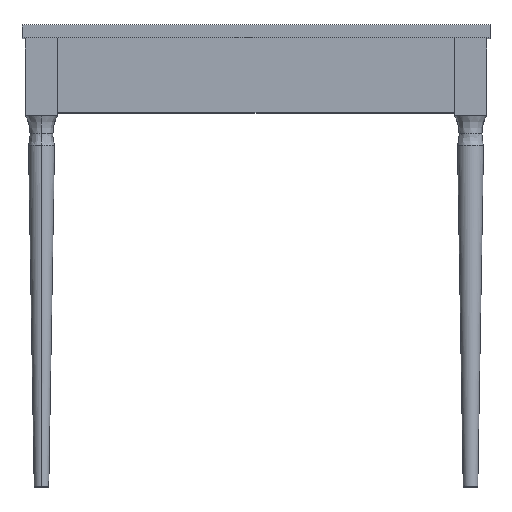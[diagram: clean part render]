
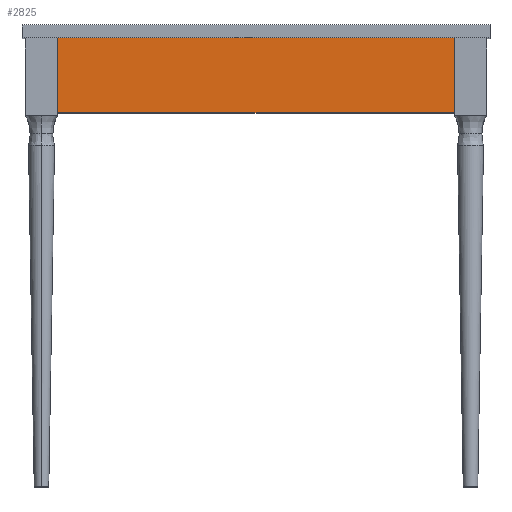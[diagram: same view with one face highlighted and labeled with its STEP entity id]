
A CAD part, top view. The second image highlights one B-rep face of the part: STEP entity #2825.
In plain terms, the highlighted free-form (B-spline) face has degree [1, 1] with [2, 2] control points.
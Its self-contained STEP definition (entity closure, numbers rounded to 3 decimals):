
#125 = CARTESIAN_POINT ( 'NONE',  ( 498.662, 415.224, 407.041 ) ) ;
#158 = B_SPLINE_CURVE_WITH_KNOTS ( 'NONE', 1,
 ( #2042, #1531 ),
 .UNSPECIFIED., .F., .F.,
 ( 2, 2 ),
 ( 0., 1. ),
 .UNSPECIFIED. ) ;
#236 = B_SPLINE_CURVE_WITH_KNOTS ( 'NONE', 1,
 ( #125, #1853 ),
 .UNSPECIFIED., .F., .F.,
 ( 2, 2 ),
 ( 0.042, 1. ),
 .UNSPECIFIED. ) ;
#298 = ORIENTED_EDGE ( 'NONE', *, *, #1355, .T. ) ;
#492 = ORIENTED_EDGE ( 'NONE', *, *, #1516, .F. ) ;
#656 = VERTEX_POINT ( 'NONE', #2188 ) ;
#705 = CARTESIAN_POINT ( 'NONE',  ( 498.662, 342.199, 407.041 ) ) ;
#840 = B_SPLINE_CURVE_WITH_KNOTS ( 'NONE', 1,
 ( #1468, #2026 ),
 .UNSPECIFIED., .F., .F.,
 ( 2, 2 ),
 ( 0., 1. ),
 .UNSPECIFIED. ) ;
#894 = FACE_OUTER_BOUND ( 'NONE', #1590, .T. ) ;
#960 = CARTESIAN_POINT ( 'NONE',  ( 111.312, 415.224, 407.041 ) ) ;
#999 = B_SPLINE_CURVE_WITH_KNOTS ( 'NONE', 1,
 ( #705, #1955 ),
 .UNSPECIFIED., .F., .F.,
 ( 2, 2 ),
 ( 0., 1. ),
 .UNSPECIFIED. ) ;
#1100 = B_SPLINE_SURFACE_WITH_KNOTS ( 'NONE', 1, 1, ( 
 ( #1414, #1137 ),
 ( #2160, #960 ) ),
 .UNSPECIFIED., .F., .F., .F.,
 ( 2, 2 ),
 ( 2, 2 ),
 ( 0., 1. ),
 ( 0., 1. ),
 .UNSPECIFIED. ) ;
#1137 = CARTESIAN_POINT ( 'NONE',  ( 498.662, 415.224, 407.041 ) ) ;
#1355 = EDGE_CURVE ( 'NONE', #2449, #1981, #158, .T. ) ;
#1414 = CARTESIAN_POINT ( 'NONE',  ( 498.662, 342.199, 407.041 ) ) ;
#1468 = CARTESIAN_POINT ( 'NONE',  ( 111.312, 415.224, 407.041 ) ) ;
#1488 = VERTEX_POINT ( 'NONE', #2635 ) ;
#1516 = EDGE_CURVE ( 'NONE', #2449, #656, #236, .T. ) ;
#1531 = CARTESIAN_POINT ( 'NONE',  ( 111.312, 415.224, 407.041 ) ) ;
#1590 = EDGE_LOOP ( 'NONE', ( #492, #298, #1737, #2260 ) ) ;
#1737 = ORIENTED_EDGE ( 'NONE', *, *, #2960, .T. ) ;
#1853 = CARTESIAN_POINT ( 'NONE',  ( 498.662, 342.199, 407.041 ) ) ;
#1955 = CARTESIAN_POINT ( 'NONE',  ( 111.312, 342.199, 407.041 ) ) ;
#1981 = VERTEX_POINT ( 'NONE', #2579 ) ;
#2026 = CARTESIAN_POINT ( 'NONE',  ( 111.312, 342.199, 407.041 ) ) ;
#2042 = CARTESIAN_POINT ( 'NONE',  ( 498.662, 415.224, 407.041 ) ) ;
#2160 = CARTESIAN_POINT ( 'NONE',  ( 111.312, 342.199, 407.041 ) ) ;
#2188 = CARTESIAN_POINT ( 'NONE',  ( 498.662, 342.199, 407.041 ) ) ;
#2260 = ORIENTED_EDGE ( 'NONE', *, *, #2389, .F. ) ;
#2389 = EDGE_CURVE ( 'NONE', #656, #1488, #999, .T. ) ;
#2449 = VERTEX_POINT ( 'NONE', #2537 ) ;
#2537 = CARTESIAN_POINT ( 'NONE',  ( 498.662, 415.224, 407.041 ) ) ;
#2579 = CARTESIAN_POINT ( 'NONE',  ( 111.312, 415.224, 407.041 ) ) ;
#2635 = CARTESIAN_POINT ( 'NONE',  ( 111.312, 342.199, 407.041 ) ) ;
#2825 = ADVANCED_FACE ( 'NONE', ( #894 ), #1100, .F. ) ;
#2960 = EDGE_CURVE ( 'NONE', #1981, #1488, #840, .T. ) ;
